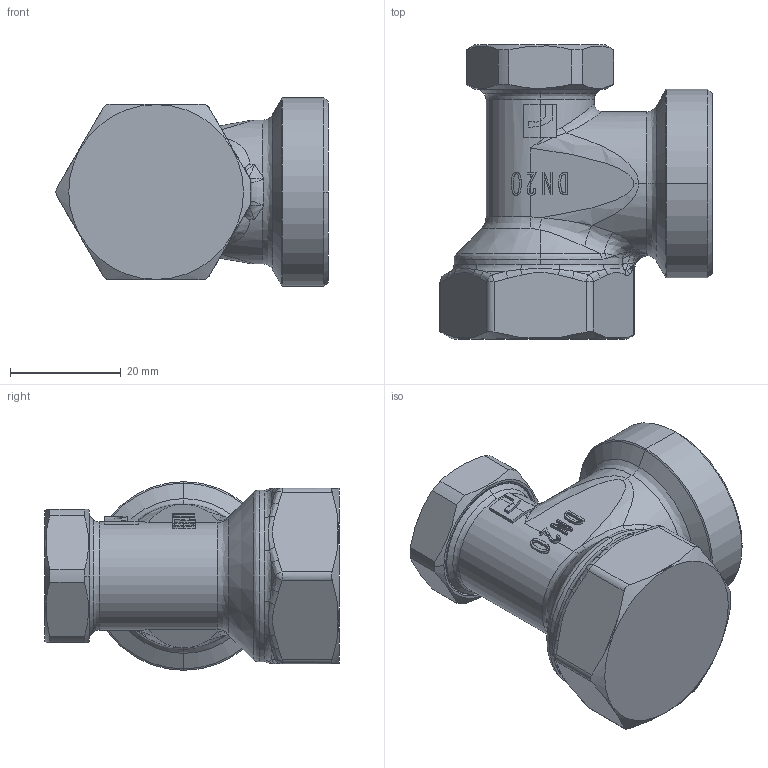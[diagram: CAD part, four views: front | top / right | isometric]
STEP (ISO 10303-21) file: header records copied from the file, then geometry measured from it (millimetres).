
FILE_DESCRIPTION (( 'STEP AP214' ), '1' );
FILE_NAME ('443620.STEP', '2021-07-07T12:21:13', ( '' ), ( '' ), 'SwSTEP 2.0', 'SolidWorks 2016', '' );
FILE_SCHEMA (( 'AUTOMOTIVE_DESIGN' ));
Length unit declared in the file: millimetre
Products named in the file (1): 443620
Bounding box: 49.07 x 53 x 34 mm (x, y, z)
Volume: 42533.6 mm3; surface area: 8492.6 mm2
Topology: 1 solids, 1 shells, 258 faces, 665 edges, 402 vertices
Faces by surface type: bspline 138, plane 57, cylinder 41, cone 22
Entity records: 12184 total; most frequent: CARTESIAN_POINT 6960, ORIENTED_EDGE 1308, DIRECTION 774, EDGE_CURVE 654, VERTEX_POINT 402, AXIS2_PLACEMENT_3D 295, B_SPLINE_CURVE_WITH_KNOTS 282, EDGE_LOOP 264
